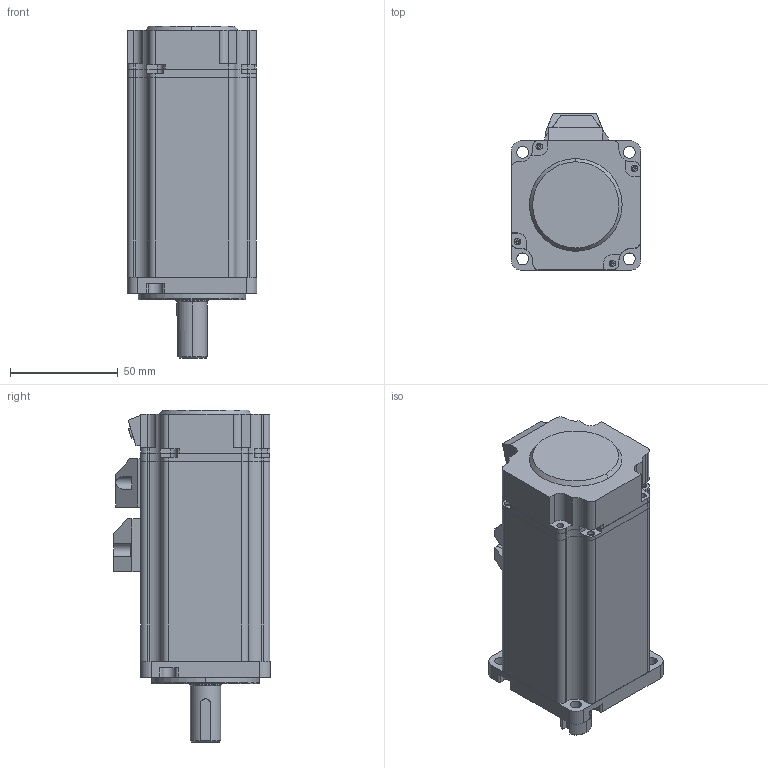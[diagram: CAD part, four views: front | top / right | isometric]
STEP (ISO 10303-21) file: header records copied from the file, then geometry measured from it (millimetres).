
FILE_DESCRIPTION (( 'STEP AP203' ), '1' );
FILE_NAME ('60A1ST-R01330LBZX.STEP', '2023-05-06T07:19:30', ( '' ), ( '' ), 'SwSTEP 2.0', 'SolidWorks 2018', '' );
FILE_SCHEMA (( 'CONFIG_CONTROL_DESIGN' ));
Length unit declared in the file: millimetre
Products named in the file (9): 梓饜綴裔; 蚐猾; 情遴綴欶; 60A1ST-R01330LBZX; 85揤啣; 1.27nm惕掅儂褲; 正确前盖; 雄薯盄揤啣; 200w蛌粣 
Assembly tree (8 placements, depth 2):
  60A1ST-R01330LBZX
    200w蛌粣 
    85揤啣
    情遴綴欶
    梓饜綴裔
    雄薯盄揤啣
    蚐猾
    正确前盖
    1.27nm惕掅儂褲
Bounding box: 60.2 x 72.7 x 154 mm (x, y, z)
Volume: 137501 mm3; surface area: 90900.8 mm2
Topology: 8 solids, 8 shells, 622 faces, 1624 edges, 1042 vertices
Faces by surface type: cylinder 301, plane 242, cone 61, torus 18
Entity records: 20399 total; most frequent: CARTESIAN_POINT 3605, DIRECTION 3494, ORIENTED_EDGE 3180, EDGE_CURVE 1590, AXIS2_PLACEMENT_3D 1307, VERTEX_POINT 1038, LINE 880, VECTOR 880
